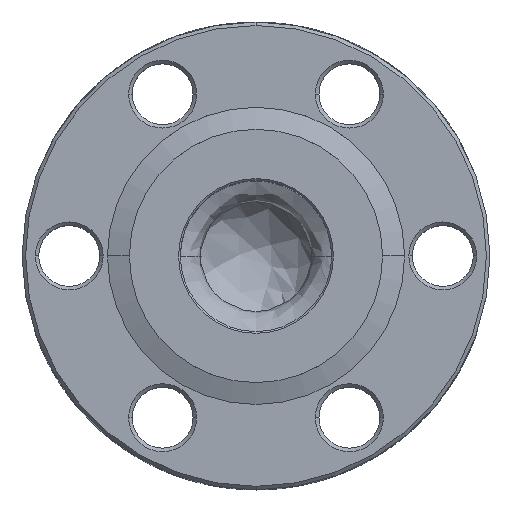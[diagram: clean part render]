
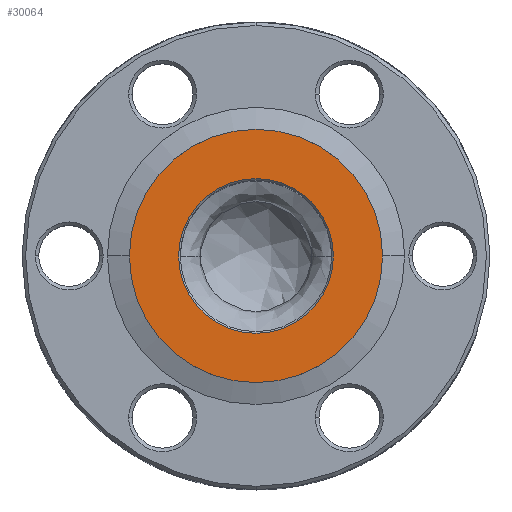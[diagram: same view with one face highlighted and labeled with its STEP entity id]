
A CAD part, top view. The second image highlights one B-rep face of the part: STEP entity #30064.
In plain terms, the highlighted planar face has unit normal (0, 0, 1).
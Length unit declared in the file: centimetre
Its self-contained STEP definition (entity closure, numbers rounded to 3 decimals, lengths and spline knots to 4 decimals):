
#6243 = EDGE_CURVE ( 'NONE', #32333, #32543, #62222, .T. ) ;
#6266 = EDGE_CURVE ( 'NONE', #32224, #32594, #62280, .T. ) ;
#6329 = EDGE_CURVE ( 'NONE', #32543, #32333, #62396, .T. ) ;
#6349 = EDGE_CURVE ( 'NONE', #32594, #32224, #62426, .T. ) ;
#15049 = CARTESIAN_POINT ( 'NONE',  ( -0.5588, 0., -0.127 ) ) ;
#15123 = CARTESIAN_POINT ( 'NONE',  ( -0.9144, 0., -0.127 ) ) ;
#15333 = CARTESIAN_POINT ( 'NONE',  ( 0.9144, 0., -0.127 ) ) ;
#15384 = CARTESIAN_POINT ( 'NONE',  ( 0.5588, 0., -0.127 ) ) ;
#18087 = CARTESIAN_POINT ( 'NONE',  ( -0.4572, 0., -0.127 ) ) ;
#18157 = PLANE ( 'NONE',  #23972 ) ;
#18159 = DIRECTION ( 'NONE',  ( 0., 0., -1. ) ) ;
#18160 = DIRECTION ( 'NONE',  ( -1., 0., 0. ) ) ;
#23972 = AXIS2_PLACEMENT_3D ( 'NONE', #18087, #18159, #18160 ) ;
#27803 = AXIS2_PLACEMENT_3D ( 'NONE', #39887, #39888, #39889 ) ;
#27807 = AXIS2_PLACEMENT_3D ( 'NONE', #40023, #40024, #40025 ) ;
#27843 = AXIS2_PLACEMENT_3D ( 'NONE', #40306, #40307, #40308 ) ;
#27852 = AXIS2_PLACEMENT_3D ( 'NONE', #40406, #40407, #40408 ) ;
#30064 = ADVANCED_FACE ( 'NONE', ( #43087, #43088 ), #18157, .F. ) ;
#32224 = VERTEX_POINT ( 'NONE', #15049 ) ;
#32333 = VERTEX_POINT ( 'NONE', #15123 ) ;
#32543 = VERTEX_POINT ( 'NONE', #15333 ) ;
#32594 = VERTEX_POINT ( 'NONE', #15384 ) ;
#38003 = ORIENTED_EDGE ( 'NONE', *, *, #6329, .T. ) ;
#38026 = ORIENTED_EDGE ( 'NONE', *, *, #6349, .F. ) ;
#39887 = CARTESIAN_POINT ( 'NONE',  ( 0., 0., -0.127 ) ) ;
#39888 = DIRECTION ( 'NONE',  ( 0., 0., 1. ) ) ;
#39889 = DIRECTION ( 'NONE',  ( 1., 0., 0. ) ) ;
#40023 = CARTESIAN_POINT ( 'NONE',  ( 0., 0., -0.127 ) ) ;
#40024 = DIRECTION ( 'NONE',  ( 0., 0., 1. ) ) ;
#40025 = DIRECTION ( 'NONE',  ( 1., 0., 0. ) ) ;
#40306 = CARTESIAN_POINT ( 'NONE',  ( 0., 0., -0.127 ) ) ;
#40307 = DIRECTION ( 'NONE',  ( 0., 0., 1. ) ) ;
#40308 = DIRECTION ( 'NONE',  ( 1., 0., 0. ) ) ;
#40406 = CARTESIAN_POINT ( 'NONE',  ( 0., 0., -0.127 ) ) ;
#40407 = DIRECTION ( 'NONE',  ( 0., 0., 1. ) ) ;
#40408 = DIRECTION ( 'NONE',  ( 1., 0., 0. ) ) ;
#43087 = FACE_BOUND ( 'NONE', #46732, .T. ) ;
#43088 = FACE_OUTER_BOUND ( 'NONE', #46736, .T. ) ;
#46732 = EDGE_LOOP ( 'NONE', ( #38026, #49128 ) ) ;
#46736 = EDGE_LOOP ( 'NONE', ( #38003, #49101 ) ) ;
#49101 = ORIENTED_EDGE ( 'NONE', *, *, #6243, .T. ) ;
#49128 = ORIENTED_EDGE ( 'NONE', *, *, #6266, .F. ) ;
#62222 = CIRCLE ( 'NONE', #27803, 0.9144 ) ;
#62280 = CIRCLE ( 'NONE', #27807, 0.5588 ) ;
#62396 = CIRCLE ( 'NONE', #27843, 0.9144 ) ;
#62426 = CIRCLE ( 'NONE', #27852, 0.5588 ) ;
